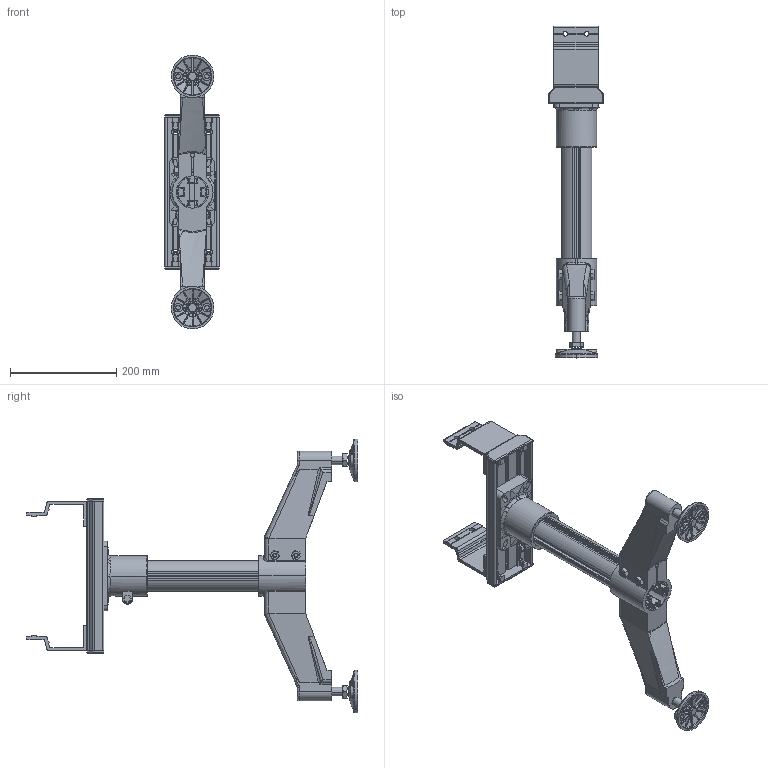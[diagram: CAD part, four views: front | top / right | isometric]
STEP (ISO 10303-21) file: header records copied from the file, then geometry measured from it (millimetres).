
FILE_DESCRIPTION (( 'STEP AP214' ), '1' );
FILE_NAME ('F2-750-P2.STEP', '2010-03-11T09:15:49', ( '.' ), ( '' ), 'SwSTEP 2.0', 'SolidWorks 2009', '' );
FILE_SCHEMA (( 'AUTOMOTIVE_DESIGN' ));
Length unit declared in the file: millimetre
Products named in the file (1): F2-750-P2
Bounding box: 102 x 623.16 x 514.6 mm (x, y, z)
Surface area: 620307.6 mm2 (no closed solid volume)
Topology: 0 solids, 17 shells, 994 faces, 3200 edges, 2127 vertices
Faces by surface type: plane 423, cylinder 294, bspline 96, cone 86, torus 71, sphere 24
Entity records: 60191 total; most frequent: CARTESIAN_POINT 22604, ORIENTED_EDGE 5504, DIRECTION 5261, EDGE_CURVE 3196, VERTEX_POINT 2127, AXIS2_PLACEMENT_3D 1905, VECTOR 1451, LINE 1451
